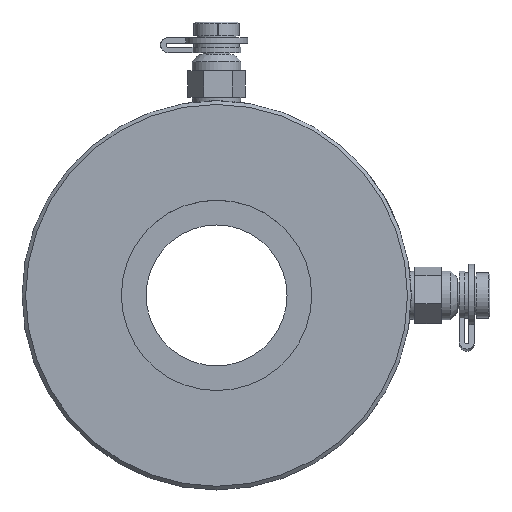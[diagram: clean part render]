
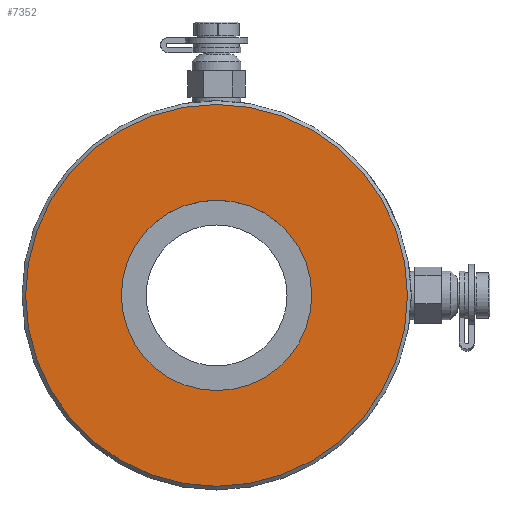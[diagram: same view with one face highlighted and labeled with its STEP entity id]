
A CAD part, top view. The second image highlights one B-rep face of the part: STEP entity #7352.
In plain terms, the highlighted planar face has unit normal (0, 0, 1).
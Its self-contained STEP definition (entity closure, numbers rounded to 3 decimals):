
#7318=CARTESIAN_POINT('',(53.5,0.,9.0));
#7319=VERTEX_POINT('',#7318);
#7320=CARTESIAN_POINT('',(0.0,0.0,9.0));
#7321=DIRECTION('',(0.0,0.0,-1.0));
#7322=DIRECTION('',(-1.0,0.0,0.0));
#7323=AXIS2_PLACEMENT_3D('',#7320,#7321,#7322);
#7324=CIRCLE('',#7323,53.5);
#7325=EDGE_CURVE('',#7319,#7319,#7324,.T.);
#7333=CARTESIAN_POINT('',(0.0,0.0,9.0));
#7334=DIRECTION('',(0.0,0.0,-1.0));
#7335=DIRECTION('',(-1.0,0.0,0.0));
#7336=AXIS2_PLACEMENT_3D('',#7333,#7334,#7335);
#7337=PLANE('',#7336);
#7338=ORIENTED_EDGE('',*,*,#7325,.F.);
#7339=EDGE_LOOP('',(#7338));
#7340=FACE_OUTER_BOUND('',#7339,.T.);
#7341=CARTESIAN_POINT('',(26.675,0.,9.0));
#7342=VERTEX_POINT('',#7341);
#7343=CARTESIAN_POINT('',(0.0,0.0,9.0));
#7344=DIRECTION('',(0.0,0.0,-1.0));
#7345=DIRECTION('',(-1.0,0.0,0.0));
#7346=AXIS2_PLACEMENT_3D('',#7343,#7344,#7345);
#7347=CIRCLE('',#7346,26.675);
#7348=EDGE_CURVE('',#7342,#7342,#7347,.T.);
#7349=ORIENTED_EDGE('',*,*,#7348,.T.);
#7350=EDGE_LOOP('',(#7349));
#7351=FACE_BOUND('',#7350,.T.);
#7352=ADVANCED_FACE('',(#7340,#7351),#7337,.F.);
